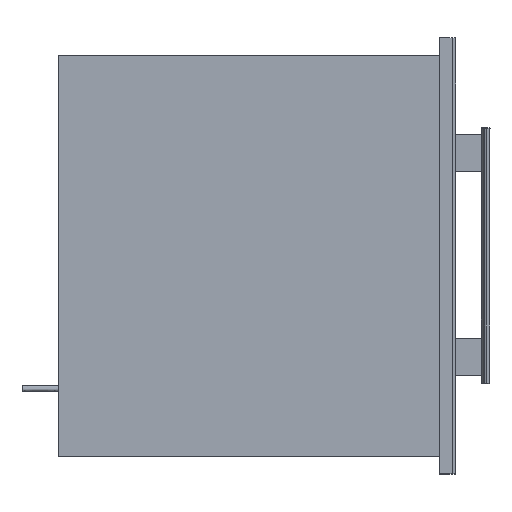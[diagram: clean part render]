
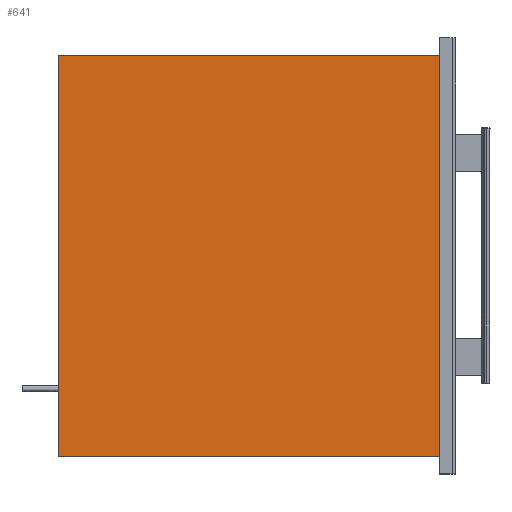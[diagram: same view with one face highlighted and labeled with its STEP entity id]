
A CAD part, top view. The second image highlights one B-rep face of the part: STEP entity #641.
In plain terms, the highlighted free-form (B-spline) face has degree [1, 1] with [2, 2] control points.
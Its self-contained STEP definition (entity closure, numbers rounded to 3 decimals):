
#641=ADVANCED_FACE('',(#884),#2890,.T.);
#884=FACE_OUTER_BOUND('',#1129,.T.);
#1129=EDGE_LOOP('',(#1808,#1809,#1810,#1811));
#1808=ORIENTED_EDGE('',*,*,#2379,.T.);
#1809=ORIENTED_EDGE('',*,*,#2375,.T.);
#1810=ORIENTED_EDGE('',*,*,#2378,.F.);
#1811=ORIENTED_EDGE('',*,*,#2372,.F.);
#2372=EDGE_CURVE('',#2712,#2713,#3083,.T.);
#2375=EDGE_CURVE('',#2714,#2715,#3086,.T.);
#2378=EDGE_CURVE('',#2713,#2715,#3089,.T.);
#2379=EDGE_CURVE('',#2712,#2714,#3090,.T.);
#2712=VERTEX_POINT('',#12106);
#2713=VERTEX_POINT('',#12107);
#2714=VERTEX_POINT('',#12108);
#2715=VERTEX_POINT('',#12109);
#2890=B_SPLINE_SURFACE_WITH_KNOTS('',1,1,((#12082,#12083),(#12084,#12085)),
.UNSPECIFIED.,.F.,.F.,.F.,(2,2),(2,2),(0.048,0.96),
(0.075,0.943),.UNSPECIFIED.);
#3083=B_SPLINE_CURVE_WITH_KNOTS('',3,(#11954,#11955,#11956,#11957),.UNSPECIFIED.,
.F.,.F.,(4,4),(23.843,571.345),.UNSPECIFIED.);
#3086=B_SPLINE_CURVE_WITH_KNOTS('',1,(#11972,#11973),.UNSPECIFIED.,.F.,.F.,
(2,2),(0.04,0.952),.UNSPECIFIED.);
#3089=B_SPLINE_CURVE_WITH_KNOTS('',1,(#11978,#11979),.UNSPECIFIED.,.F.,.F.,
(2,2),(0.075,0.943),.UNSPECIFIED.);
#3090=B_SPLINE_CURVE_WITH_KNOTS('',1,(#11980,#11981),.UNSPECIFIED.,.F.,.F.,
(2,2),(0.075,0.943),.UNSPECIFIED.);
#11954=CARTESIAN_POINT('',(-520.588,-273.751,445.053));
#11955=CARTESIAN_POINT('',(-520.588,-91.25,445.053));
#11956=CARTESIAN_POINT('',(-520.588,91.25,445.053));
#11957=CARTESIAN_POINT('',(-520.588,273.751,445.053));
#11972=CARTESIAN_POINT('',(-0.088,-273.751,445.053));
#11973=CARTESIAN_POINT('',(-0.088,273.751,445.053));
#11978=CARTESIAN_POINT('',(-520.588,273.751,445.053));
#11979=CARTESIAN_POINT('',(-0.088,273.751,445.053));
#11980=CARTESIAN_POINT('',(-520.588,-273.751,445.053));
#11981=CARTESIAN_POINT('',(-0.088,-273.751,445.053));
#12082=CARTESIAN_POINT('',(-520.588,273.751,445.053));
#12083=CARTESIAN_POINT('',(-0.088,273.751,445.053));
#12084=CARTESIAN_POINT('',(-520.588,-273.751,445.053));
#12085=CARTESIAN_POINT('',(-0.088,-273.751,445.053));
#12106=CARTESIAN_POINT('',(-520.588,-273.751,445.053));
#12107=CARTESIAN_POINT('',(-520.588,273.751,445.053));
#12108=CARTESIAN_POINT('',(-0.088,-273.751,445.053));
#12109=CARTESIAN_POINT('',(-0.088,273.751,445.053));
